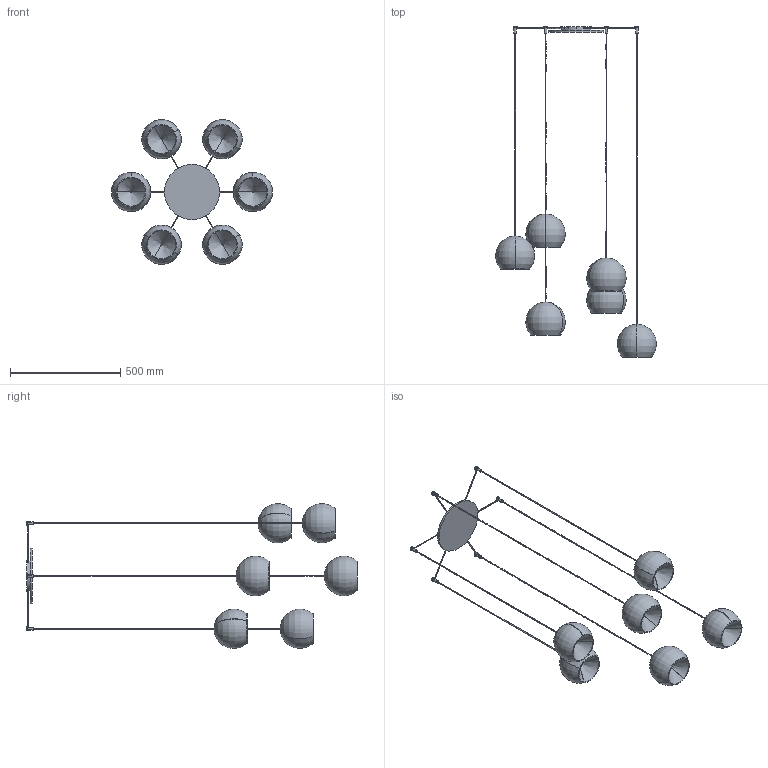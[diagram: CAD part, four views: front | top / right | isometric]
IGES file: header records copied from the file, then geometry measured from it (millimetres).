
Start section: SolidWorks IGES file using analytic representation for surfaces
Global section: file name: Y:\eforma\TECNICO\SOLIDWORKS\E-FORMA\09-LAMPADE\CHERRY\08 modelli 3D web\CHR06-00-CHERRY_6 sospensione.IGS; native system: SolidWorks 2022; preprocessor: SolidWorks 2022; author: eforma.tech; date: 240801.143910; units: millimetre
Bounding box: 728.72 x 1500 x 656.5 mm (x, y, z)
Volume: 1937836.2 mm3; surface area: 1477031.1 mm2
Topology: 31 solids, 31 shells, 228 faces, 482 edges, 305 vertices
Faces by surface type: revolution 157, plane 71
